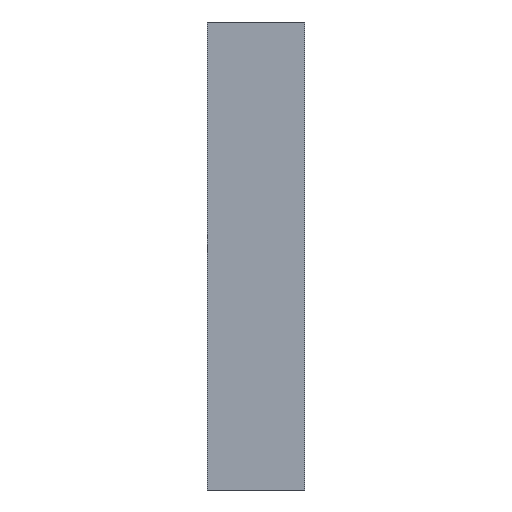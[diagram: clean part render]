
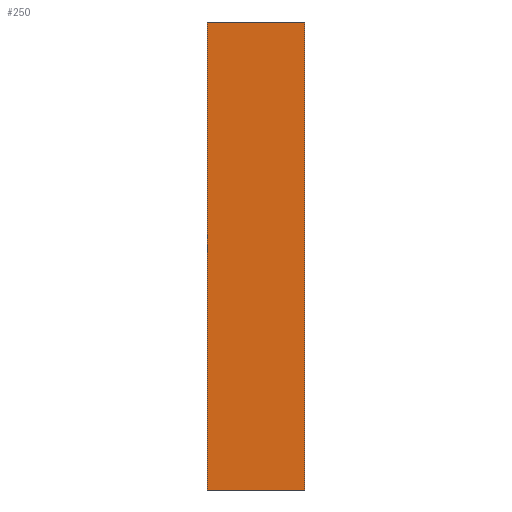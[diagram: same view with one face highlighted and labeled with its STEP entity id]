
A CAD part, front view. The second image highlights one B-rep face of the part: STEP entity #250.
In plain terms, the highlighted planar face has unit normal (0, -1, 0).
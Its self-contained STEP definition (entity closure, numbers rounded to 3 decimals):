
#22 = VERTEX_POINT('',#23);
#23 = CARTESIAN_POINT('',(90.,-107.,56.));
#31 = EDGE_CURVE('',#32,#22,#34,.T.);
#32 = VERTEX_POINT('',#33);
#33 = CARTESIAN_POINT('',(90.,-107.,44.));
#34 = LINE('',#35,#36);
#35 = CARTESIAN_POINT('',(90.,-107.,44.));
#36 = VECTOR('',#37,1.);
#37 = DIRECTION('',(0.,0.,1.));
#114 = EDGE_CURVE('',#22,#115,#117,.T.);
#115 = VERTEX_POINT('',#116);
#116 = CARTESIAN_POINT('',(92.5,-107.,56.));
#117 = LINE('',#118,#119);
#118 = CARTESIAN_POINT('',(90.,-107.,56.));
#119 = VECTOR('',#120,1.);
#120 = DIRECTION('',(1.,0.,0.));
#224 = EDGE_CURVE('',#32,#225,#227,.T.);
#225 = VERTEX_POINT('',#226);
#226 = CARTESIAN_POINT('',(92.5,-107.,44.));
#227 = LINE('',#228,#229);
#228 = CARTESIAN_POINT('',(90.,-107.,44.));
#229 = VECTOR('',#230,1.);
#230 = DIRECTION('',(1.,0.,0.));
#250 = ADVANCED_FACE('',(#251),#262,.F.);
#251 = FACE_BOUND('',#252,.F.);
#252 = EDGE_LOOP('',(#253,#254,#255,#256));
#253 = ORIENTED_EDGE('',*,*,#224,.F.);
#254 = ORIENTED_EDGE('',*,*,#31,.T.);
#255 = ORIENTED_EDGE('',*,*,#114,.T.);
#256 = ORIENTED_EDGE('',*,*,#257,.F.);
#257 = EDGE_CURVE('',#225,#115,#258,.T.);
#258 = LINE('',#259,#260);
#259 = CARTESIAN_POINT('',(92.5,-107.,44.));
#260 = VECTOR('',#261,1.);
#261 = DIRECTION('',(0.,0.,1.));
#262 = PLANE('',#263);
#263 = AXIS2_PLACEMENT_3D('',#264,#265,#266);
#264 = CARTESIAN_POINT('',(90.,-107.,44.));
#265 = DIRECTION('',(0.,1.,0.));
#266 = DIRECTION('',(0.,0.,1.));
